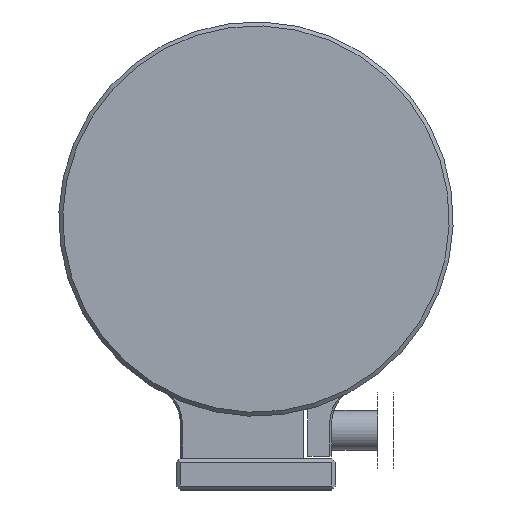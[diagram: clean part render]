
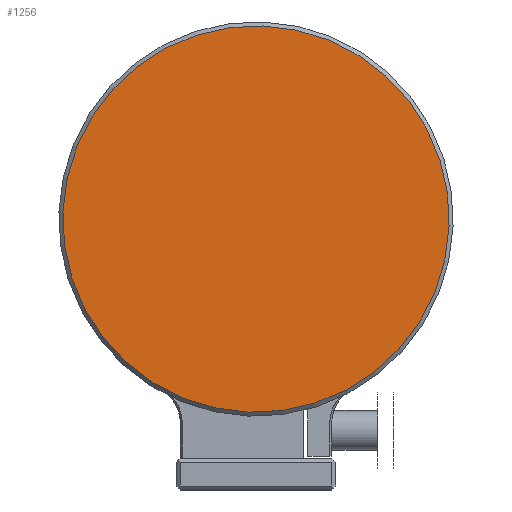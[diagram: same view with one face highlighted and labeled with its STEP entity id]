
A CAD part, left-side view. The second image highlights one B-rep face of the part: STEP entity #1256.
In plain terms, the highlighted planar face has unit normal (-1, 0, 0).
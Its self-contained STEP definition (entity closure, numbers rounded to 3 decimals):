
#1216=CARTESIAN_POINT('',(-60.106,-28.239,-48.055));
#1217=VERTEX_POINT('',#1216);
#1218=CARTESIAN_POINT('',(-60.106,-21.681,0.));
#1219=DIRECTION('',(1.0,0.,0.));
#1220=DIRECTION('',(0.,-0.135,-0.991));
#1221=AXIS2_PLACEMENT_3D('',#1218,#1219,#1220);
#1222=CIRCLE('',#1221,48.5);
#1223=EDGE_CURVE('',#1217,#1217,#1222,.T.);
#1248=CARTESIAN_POINT('',(-60.106,-28.135,-47.291));
#1249=DIRECTION('',(-1.0,0.0,0.0));
#1250=DIRECTION('',(0.0,0.991,-0.135));
#1251=AXIS2_PLACEMENT_3D('',#1248,#1249,#1250);
#1252=PLANE('',#1251);
#1253=ORIENTED_EDGE('',*,*,#1223,.F.);
#1254=EDGE_LOOP('',(#1253));
#1255=FACE_OUTER_BOUND('',#1254,.T.);
#1256=ADVANCED_FACE('',(#1255),#1252,.T.);
